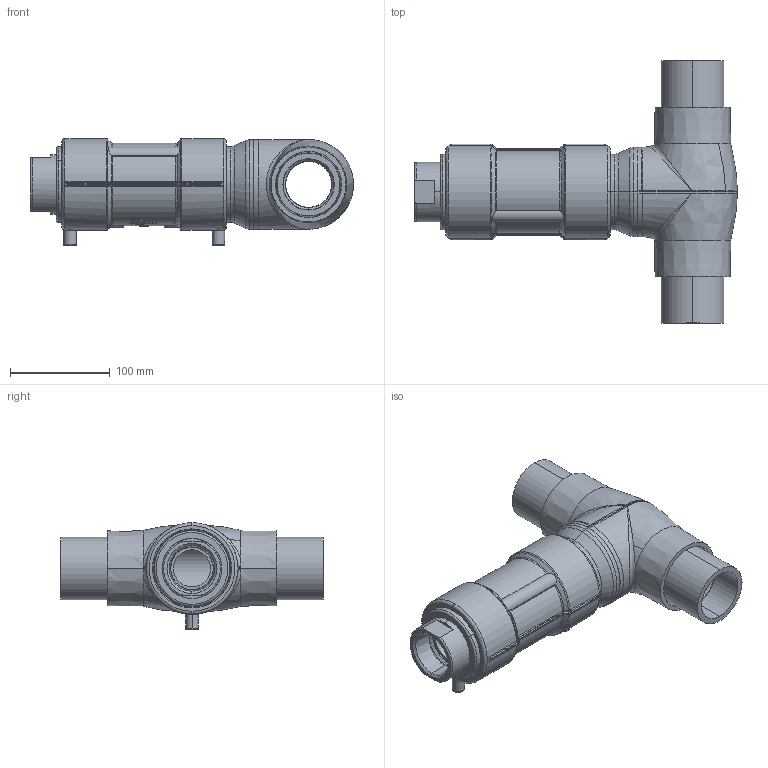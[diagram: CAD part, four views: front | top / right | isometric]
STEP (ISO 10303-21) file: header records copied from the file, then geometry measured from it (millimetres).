
FILE_DESCRIPTION (( 'STEP AP203' ), '1' );
FILE_NAME ('KP_8-75-63SCEC20.step', '2011-08-08T11:38:48', ( '' ), ( '' ), 'SwSTEP 2.0', 'SolidWorks 2011', '' );
FILE_SCHEMA (( 'CONFIG_CONTROL_DESIGN' ));
Length unit declared in the file: millimetre
Products named in the file (1): KP_8-75-63SCEC20
Bounding box: 323.99 x 263 x 107.22 mm (x, y, z)
Volume: 1459198.3 mm3; surface area: 430653.3 mm2
Topology: 5 solids, 9 shells, 937 faces, 2421 edges, 1499 vertices
Faces by surface type: plane 297, cylinder 229, bspline 181, torus 130, cone 84, sphere 16
Entity records: 42956 total; most frequent: CARTESIAN_POINT 22218, ORIENTED_EDGE 4798, DIRECTION 3805, EDGE_CURVE 2399, AXIS2_PLACEMENT_3D 1537, VERTEX_POINT 1499, EDGE_LOOP 1000, FACE_OUTER_BOUND 937
